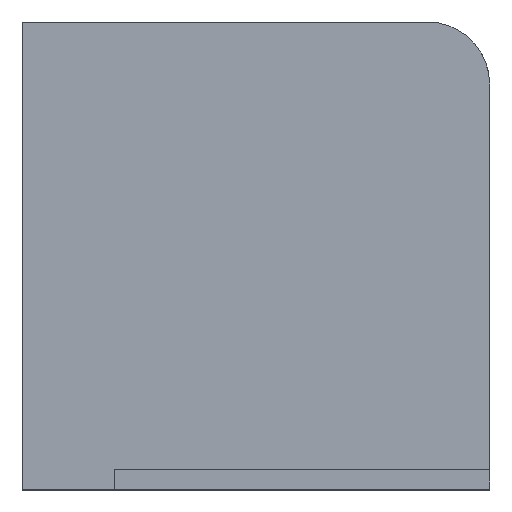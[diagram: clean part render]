
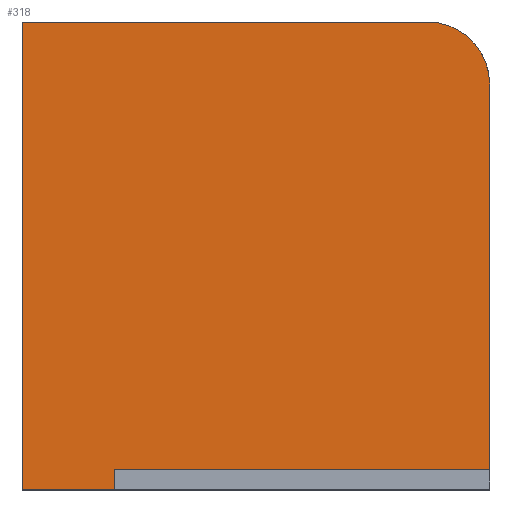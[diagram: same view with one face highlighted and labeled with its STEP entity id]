
A CAD part, top view. The second image highlights one B-rep face of the part: STEP entity #318.
In plain terms, the highlighted planar face has unit normal (0, 0, 1).
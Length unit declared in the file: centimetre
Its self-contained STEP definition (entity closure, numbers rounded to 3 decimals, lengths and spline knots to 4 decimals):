
#23 = EDGE_CURVE ( 'NONE', #979, #891, #930, .T. ) ;
#31 = DIRECTION ( 'NONE',  ( -1., 0., 0. ) ) ;
#33 = DIRECTION ( 'NONE',  ( 1., 0., 0. ) ) ;
#48 = VERTEX_POINT ( 'NONE', #546 ) ;
#65 = EDGE_CURVE ( 'NONE', #533, #48, #335, .T. ) ;
#111 = EDGE_CURVE ( 'NONE', #541, #533, #779, .T. ) ;
#141 = EDGE_CURVE ( 'NONE', #48, #232, #604, .T. ) ;
#204 = ORIENTED_EDGE ( 'NONE', *, *, #591, .F. ) ;
#207 = VERTEX_POINT ( 'NONE', #908 ) ;
#210 = VECTOR ( 'NONE', #33, 100. ) ;
#211 = VECTOR ( 'NONE', #978, 100. ) ;
#217 = CARTESIAN_POINT ( 'NONE',  ( 0., 0., 1000. ) ) ;
#232 = VERTEX_POINT ( 'NONE', #217 ) ;
#233 = EDGE_CURVE ( 'NONE', #891, #541, #761, .T. ) ;
#237 = EDGE_LOOP ( 'NONE', ( #619, #819, #275, #512, #608, #752, #204 ) ) ;
#259 = VECTOR ( 'NONE', #285, 100. ) ;
#265 = PLANE ( 'NONE',  #518 ) ;
#266 = CARTESIAN_POINT ( 'NONE',  ( 0., 0., 1000. ) ) ;
#268 = CARTESIAN_POINT ( 'NONE',  ( 197.0293, 42.1502, 1000. ) ) ;
#275 = ORIENTED_EDGE ( 'NONE', *, *, #111, .T. ) ;
#285 = DIRECTION ( 'NONE',  ( 0., -1., 0. ) ) ;
#292 = VECTOR ( 'NONE', #993, 100. ) ;
#318 = ADVANCED_FACE ( 'NONE', ( #361 ), #265, .T. ) ;
#335 = LINE ( 'NONE', #862, #764 ) ;
#359 = VECTOR ( 'NONE', #810, 100. ) ;
#361 = FACE_OUTER_BOUND ( 'NONE', #237, .T. ) ;
#404 = CARTESIAN_POINT ( 'NONE',  ( 867.1244, 1000., 1000. ) ) ;
#443 = LINE ( 'NONE', #530, #259 ) ;
#468 = AXIS2_PLACEMENT_3D ( 'NONE', #679, #757, #673 ) ;
#503 = CARTESIAN_POINT ( 'NONE',  ( 0., 0., 1000. ) ) ;
#512 = ORIENTED_EDGE ( 'NONE', *, *, #65, .T. ) ;
#518 = AXIS2_PLACEMENT_3D ( 'NONE', #503, #572, #973 ) ;
#523 = CARTESIAN_POINT ( 'NONE',  ( 0., 1000., 1000. ) ) ;
#530 = CARTESIAN_POINT ( 'NONE',  ( 197.0293, 0., 1000. ) ) ;
#533 = VERTEX_POINT ( 'NONE', #404 ) ;
#541 = VERTEX_POINT ( 'NONE', #950 ) ;
#546 = CARTESIAN_POINT ( 'NONE',  ( 0., 1000., 1000. ) ) ;
#572 = DIRECTION ( 'NONE',  ( 0., 0., 1. ) ) ;
#591 = EDGE_CURVE ( 'NONE', #979, #207, #443, .T. ) ;
#604 = LINE ( 'NONE', #523, #292 ) ;
#608 = ORIENTED_EDGE ( 'NONE', *, *, #141, .T. ) ;
#619 = ORIENTED_EDGE ( 'NONE', *, *, #23, .T. ) ;
#668 = CARTESIAN_POINT ( 'NONE',  ( 1000., 1000., 1000. ) ) ;
#671 = EDGE_CURVE ( 'NONE', #232, #207, #881, .T. ) ;
#673 = DIRECTION ( 'NONE',  ( 1., 0., 0. ) ) ;
#679 = CARTESIAN_POINT ( 'NONE',  ( 867.1244, 867.1244, 1000. ) ) ;
#752 = ORIENTED_EDGE ( 'NONE', *, *, #671, .T. ) ;
#757 = DIRECTION ( 'NONE',  ( 0., 0., 1. ) ) ;
#761 = LINE ( 'NONE', #668, #211 ) ;
#764 = VECTOR ( 'NONE', #31, 100. ) ;
#779 = CIRCLE ( 'NONE', #468, 132.8756 ) ;
#810 = DIRECTION ( 'NONE',  ( 1., 0., 0. ) ) ;
#819 = ORIENTED_EDGE ( 'NONE', *, *, #233, .T. ) ;
#860 = CARTESIAN_POINT ( 'NONE',  ( 1000., 42.1502, 1000. ) ) ;
#862 = CARTESIAN_POINT ( 'NONE',  ( 0., 1000., 1000. ) ) ;
#881 = LINE ( 'NONE', #266, #359 ) ;
#891 = VERTEX_POINT ( 'NONE', #860 ) ;
#908 = CARTESIAN_POINT ( 'NONE',  ( 197.0293, 0., 1000. ) ) ;
#924 = CARTESIAN_POINT ( 'NONE',  ( 197.0293, 42.1502, 1000. ) ) ;
#930 = LINE ( 'NONE', #268, #210 ) ;
#950 = CARTESIAN_POINT ( 'NONE',  ( 1000., 867.1244, 1000. ) ) ;
#973 = DIRECTION ( 'NONE',  ( 1., 0., 0. ) ) ;
#978 = DIRECTION ( 'NONE',  ( 0., 1., 0. ) ) ;
#979 = VERTEX_POINT ( 'NONE', #924 ) ;
#993 = DIRECTION ( 'NONE',  ( 0., -1., 0. ) ) ;
